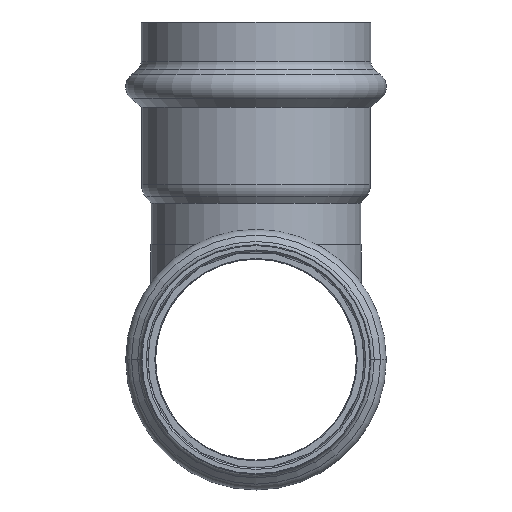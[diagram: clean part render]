
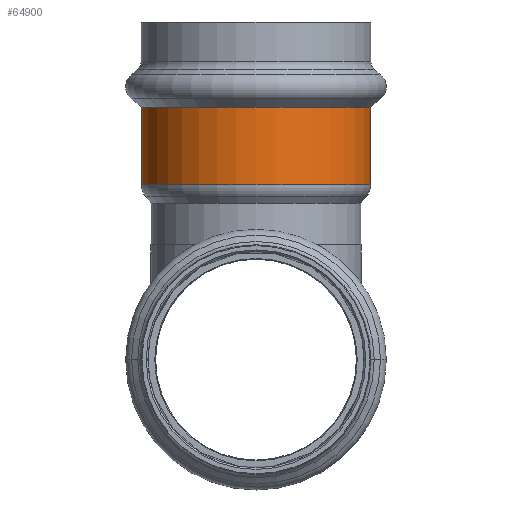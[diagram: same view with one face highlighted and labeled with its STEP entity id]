
A CAD part, front view. The second image highlights one B-rep face of the part: STEP entity #64900.
In plain terms, the highlighted cylindrical face has radius 28.9 mm (diameter 57.8 mm), a partial arc.
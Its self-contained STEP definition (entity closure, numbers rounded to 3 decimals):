
#40920=CARTESIAN_POINT('',(59.906,4.162,44.092));
#40930=VERTEX_POINT('',#40920);
#41020=CARTESIAN_POINT('',(2.106,4.162,44.092));
#41030=VERTEX_POINT('',#41020);
#41060=CARTESIAN_POINT('',(31.006,4.162,44.092));
#41070=DIRECTION('',(0.,0.,1.));
#41080=DIRECTION('',(1.,0.,0.));
#41090=AXIS2_PLACEMENT_3D('',#41060,#41070,#41080);
#41100=CIRCLE('',#41090,28.9);
#41110=EDGE_CURVE('',#41030,#40930,#41100,.T.);
#52470=CARTESIAN_POINT('',(31.006,4.162,53.862))
;
#52480=DIRECTION('',(0.,0.,-1.));
#52490=DIRECTION('',(-1.,0.,0.));
#52500=AXIS2_PLACEMENT_3D('',#52470,#52480,#52490);
#52510=CYLINDRICAL_SURFACE('',#52500,28.9);
#52520=CARTESIAN_POINT('',(2.106,4.162,53.862));
#52530=DIRECTION('',(0.,0.,-1.));
#52540=VECTOR('',#52530,1.);
#52550=LINE('',#52520,#52540);
#52560=CARTESIAN_POINT('',(2.106,4.162,63.631));
#52570=VERTEX_POINT('',#52560);
#52580=EDGE_CURVE('',#52570,#41030,#52550,.T.);
#52620=CARTESIAN_POINT('',(59.906,4.162,53.862));
#52630=DIRECTION('',(0.,0.,-1.));
#52640=VECTOR('',#52630,1.);
#52650=LINE('',#52620,#52640);
#52660=CARTESIAN_POINT('',(59.906,4.162,63.631));
#52670=VERTEX_POINT('',#52660);
#52680=EDGE_CURVE('',#52670,#40930,#52650,.T.);
#52700=CARTESIAN_POINT('',(31.006,4.162,63.631))
;
#52710=DIRECTION('',(0.,0.,-1.));
#52720=DIRECTION('',(1.,0.,0.));
#52730=AXIS2_PLACEMENT_3D('',#52700,#52710,#52720);
#52740=CIRCLE('',#52730,28.9);
#62930=EDGE_CURVE('',#52670,#52570,#52740,.T.);
#64840=ORIENTED_EDGE('',*,*,#52580,.T.);
#64850=ORIENTED_EDGE('',*,*,#62930,.T.);
#64860=ORIENTED_EDGE('',*,*,#52680,.F.);
#64870=ORIENTED_EDGE('',*,*,#41110,.T.);
#64880=EDGE_LOOP('',(#64870,#64860,#64850,#64840));
#64890=FACE_OUTER_BOUND('',#64880,.T.);
#64900=ADVANCED_FACE('',(#64890),#52510,.T.);
